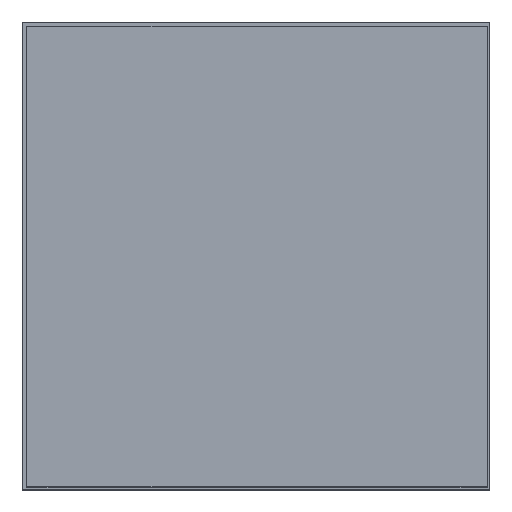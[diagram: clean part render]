
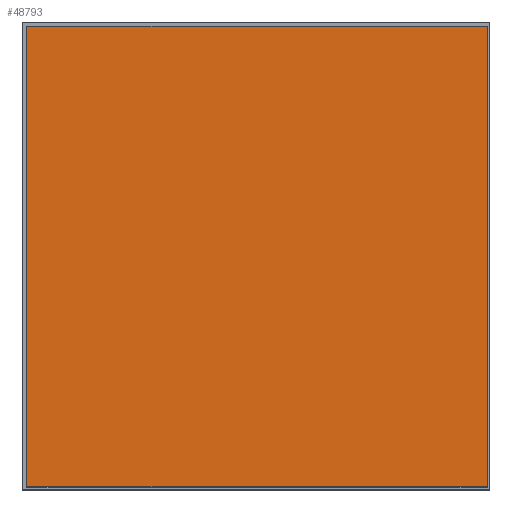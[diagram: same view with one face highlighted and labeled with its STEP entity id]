
A CAD part, top view. The second image highlights one B-rep face of the part: STEP entity #48793.
In plain terms, the highlighted planar face has unit normal (0, 0, 1).
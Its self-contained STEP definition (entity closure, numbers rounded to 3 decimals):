
#16197=DIRECTION('',(-1.,0.,0.));
#16198=VECTOR('',#16197,102.5);
#16199=CARTESIAN_POINT('',(51.5,-4.25,106.25));
#16200=LINE('',#16199,#16198);
#16241=DIRECTION('',(0.,-1.,0.));
#16242=VECTOR('',#16241,102.5);
#16243=CARTESIAN_POINT('',(51.5,98.25,106.25));
#16244=LINE('',#16243,#16242);
#16249=DIRECTION('',(0.,1.,0.));
#16250=VECTOR('',#16249,102.5);
#16251=CARTESIAN_POINT('',(-51.,-4.25,106.25));
#16252=LINE('',#16251,#16250);
#16257=DIRECTION('',(1.,0.,0.));
#16258=VECTOR('',#16257,102.5);
#16259=CARTESIAN_POINT('',(-51.,98.25,106.25));
#16260=LINE('',#16259,#16258);
#23489=CARTESIAN_POINT('',(51.5,-4.25,106.25));
#23490=VERTEX_POINT('',#23489);
#23491=CARTESIAN_POINT('',(-51.,-4.25,106.25));
#23492=VERTEX_POINT('',#23491);
#23493=CARTESIAN_POINT('',(51.5,98.25,106.25));
#23494=VERTEX_POINT('',#23493);
#23495=CARTESIAN_POINT('',(-51.,98.25,106.25));
#23496=VERTEX_POINT('',#23495);
#48780=CARTESIAN_POINT('',(0.5,46.75,106.25));
#48781=DIRECTION('',(0.,0.,-1.));
#48782=DIRECTION('',(1.,0.,0.));
#48783=AXIS2_PLACEMENT_3D('',#48780,#48781,#48782);
#48784=PLANE('',#48783);
#48786=ORIENTED_EDGE('',*,*,#48785,.T.);
#48788=ORIENTED_EDGE('',*,*,#48787,.T.);
#48789=ORIENTED_EDGE('',*,*,#48773,.T.);
#48790=ORIENTED_EDGE('',*,*,#48724,.T.);
#48791=EDGE_LOOP('',(#48786,#48788,#48789,#48790));
#48792=FACE_OUTER_BOUND('',#48791,.F.);
#48724=EDGE_CURVE('',#23490,#23492,#16200,.T.);
#48773=EDGE_CURVE('',#23494,#23490,#16244,.T.);
#48785=EDGE_CURVE('',#23492,#23496,#16252,.T.);
#48787=EDGE_CURVE('',#23496,#23494,#16260,.T.);
#48793=ADVANCED_FACE('',(#48792),#48784,.F.);
